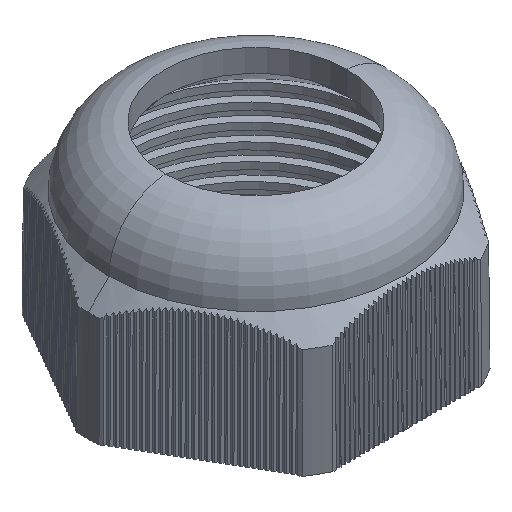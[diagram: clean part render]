
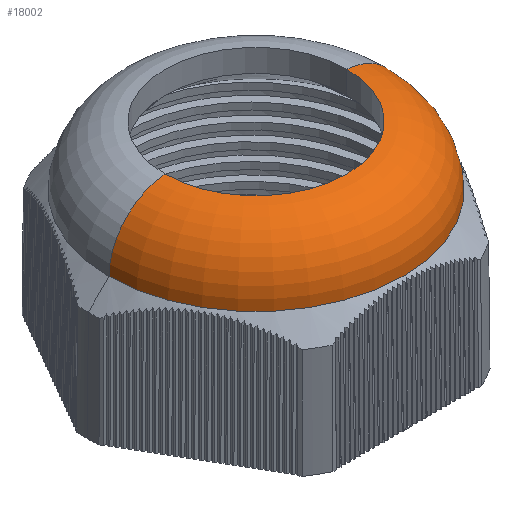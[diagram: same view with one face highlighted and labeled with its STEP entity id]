
A CAD part, isometric view. The second image highlights one B-rep face of the part: STEP entity #18002.
In plain terms, the highlighted toroidal (fillet/blend) face has major radius 12.006 mm and minor radius 8.404 mm.
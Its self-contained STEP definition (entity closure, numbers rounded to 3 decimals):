
#64 = CARTESIAN_POINT ( 'NONE',  ( -0.003, -0.008, 15.869 ) ) ;
#359 = CARTESIAN_POINT ( 'NONE',  ( -20.413, -0.008, 15.848 ) ) ;
#568 = CIRCLE ( 'NONE', #18770, 8.404 ) ;
#1107 = DIRECTION ( 'NONE',  ( 0., 0., -1. ) ) ;
#1975 = DIRECTION ( 'NONE',  ( 0., 0., -1. ) ) ;
#2465 = CARTESIAN_POINT ( 'NONE',  ( -0.003, -0.008, 24.252 ) ) ;
#3022 = CARTESIAN_POINT ( 'NONE',  ( 12.603, -0.008, 24.252 ) ) ;
#3270 = DIRECTION ( 'NONE',  ( 0., 1., 0. ) ) ;
#3657 = CIRCLE ( 'NONE', #4088, 12.606 ) ;
#4088 = AXIS2_PLACEMENT_3D ( 'NONE', #2465, #6287, #10647 ) ;
#6287 = DIRECTION ( 'NONE',  ( 0., 0., 1. ) ) ;
#6362 = VERTEX_POINT ( 'NONE', #16105 ) ;
#7079 = EDGE_LOOP ( 'NONE', ( #14959, #26099, #21809, #12356 ) ) ;
#7329 = TOROIDAL_SURFACE ( 'NONE', #24235, 12.006, 8.404 ) ;
#7857 = EDGE_CURVE ( 'NONE', #17926, #22449, #568, .T. ) ;
#8002 = DIRECTION ( 'NONE',  ( -1., 0., 0. ) ) ;
#8179 = EDGE_CURVE ( 'NONE', #6362, #9562, #14543, .T. ) ;
#9562 = VERTEX_POINT ( 'NONE', #359 ) ;
#9874 = AXIS2_PLACEMENT_3D ( 'NONE', #21222, #11164, #1107 ) ;
#10647 = DIRECTION ( 'NONE',  ( 1., 0., 0. ) ) ;
#11164 = DIRECTION ( 'NONE',  ( 0., -1., 0. ) ) ;
#11278 = AXIS2_PLACEMENT_3D ( 'NONE', #15733, #1975, #17856 ) ;
#11329 = DIRECTION ( 'NONE',  ( -1., 0., 0. ) ) ;
#11734 = DIRECTION ( 'NONE',  ( 0., 0., -1. ) ) ;
#12356 = ORIENTED_EDGE ( 'NONE', *, *, #15271, .F. ) ;
#13720 = FACE_OUTER_BOUND ( 'NONE', #7079, .T. ) ;
#14543 = CIRCLE ( 'NONE', #9874, 8.404 ) ;
#14959 = ORIENTED_EDGE ( 'NONE', *, *, #7857, .F. ) ;
#15271 = EDGE_CURVE ( 'NONE', #22449, #9562, #22677, .T. ) ;
#15733 = CARTESIAN_POINT ( 'NONE',  ( -0.003, -0.008, 15.848 ) ) ;
#15871 = CARTESIAN_POINT ( 'NONE',  ( 20.407, -0.008, 15.848 ) ) ;
#16105 = CARTESIAN_POINT ( 'NONE',  ( -12.609, -0.008, 24.252 ) ) ;
#16602 = EDGE_CURVE ( 'NONE', #6362, #17926, #3657, .T. ) ;
#17856 = DIRECTION ( 'NONE',  ( -1., 0., 0. ) ) ;
#17926 = VERTEX_POINT ( 'NONE', #3022 ) ;
#18002 = ADVANCED_FACE ( 'NONE', ( #13720 ), #7329, .T. ) ;
#18770 = AXIS2_PLACEMENT_3D ( 'NONE', #23363, #3270, #11329 ) ;
#21222 = CARTESIAN_POINT ( 'NONE',  ( -12.009, -0.008, 15.869 ) ) ;
#21809 = ORIENTED_EDGE ( 'NONE', *, *, #8179, .T. ) ;
#22449 = VERTEX_POINT ( 'NONE', #15871 ) ;
#22677 = CIRCLE ( 'NONE', #11278, 20.41 ) ;
#23363 = CARTESIAN_POINT ( 'NONE',  ( 12.003, -0.008, 15.869 ) ) ;
#24235 = AXIS2_PLACEMENT_3D ( 'NONE', #64, #11734, #8002 ) ;
#26099 = ORIENTED_EDGE ( 'NONE', *, *, #16602, .F. ) ;
